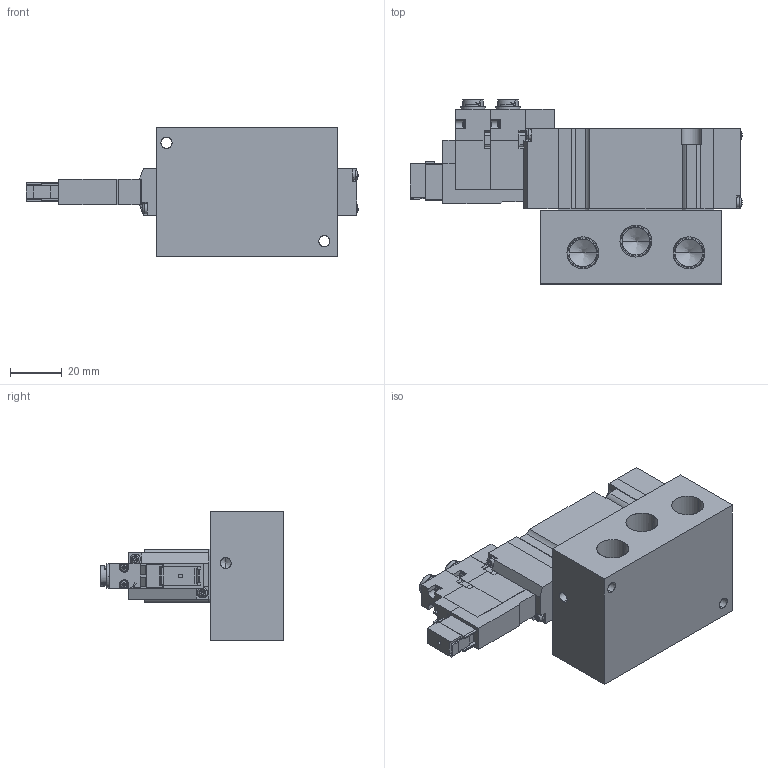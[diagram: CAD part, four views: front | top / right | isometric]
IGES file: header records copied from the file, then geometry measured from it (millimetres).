
Start section: SolidWorks IGES file using analytic representation for surfaces
Global section: file name: D:\Custom\3D繪製\ADEX\A20G\A20GD25#-#-#-E.IGS,1; native system: 5HSolidWorks 2014; preprocessor: SolidWorks 2014; author: Chieh_Lu; date: 150726.231458; units: millimetre
Bounding box: 128.3 x 71.1 x 50 mm (x, y, z)
Surface area: 42429.7 mm2 (no closed solid volume)
Topology: 0 solids, 0 shells, 931 faces, 8004 edges, 7970 vertices
Faces by surface type: bspline 636, revolution 295
